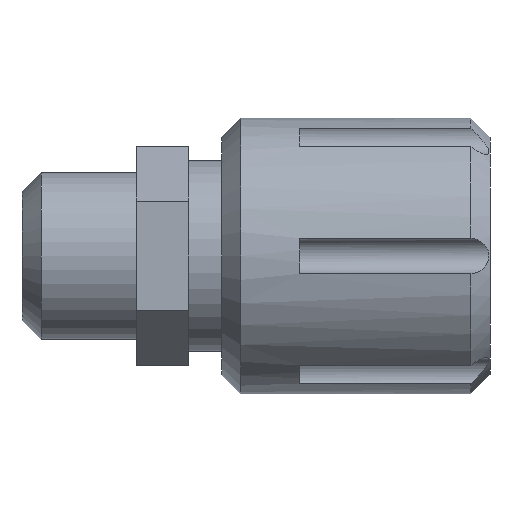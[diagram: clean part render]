
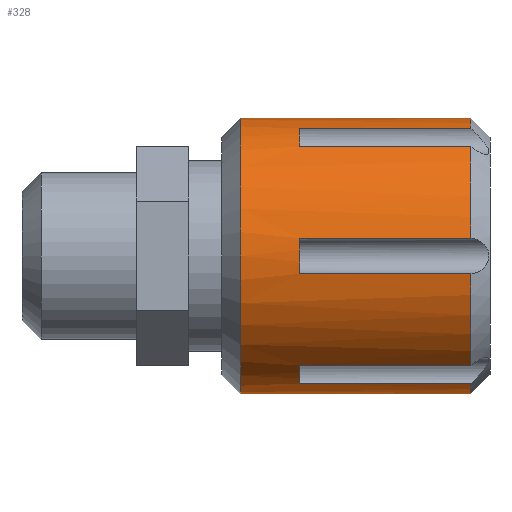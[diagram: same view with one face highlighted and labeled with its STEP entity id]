
A CAD part, front view. The second image highlights one B-rep face of the part: STEP entity #328.
In plain terms, the highlighted cylindrical face has radius 18.415 mm (diameter 36.83 mm), a partial arc.
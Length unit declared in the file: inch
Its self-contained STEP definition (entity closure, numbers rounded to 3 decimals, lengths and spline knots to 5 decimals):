
#109 = DIRECTION ( 'NONE',  ( -1., 0., 0. ) ) ;
#268 = EDGE_CURVE ( 'NONE', #1637, #1477, #1672, .T. ) ;
#328 = ADVANCED_FACE ( 'NONE', ( #388 ), #395, .T. ) ;
#388 = FACE_OUTER_BOUND ( 'NONE', #1653, .T. ) ;
#395 = CYLINDRICAL_SURFACE ( 'NONE', #1834, 0.725 ) ;
#462 = LINE ( 'NONE', #944, #465 ) ;
#465 = VECTOR ( 'NONE', #945, 39.37008 ) ;
#510 = CIRCLE ( 'NONE', #775, 0.725 ) ;
#513 = LINE ( 'NONE', #840, #519 ) ;
#514 = CIRCLE ( 'NONE', #774, 0.725 ) ;
#515 = LINE ( 'NONE', #826, #517 ) ;
#516 = CIRCLE ( 'NONE', #776, 0.725 ) ;
#517 = VECTOR ( 'NONE', #814, 39.37008 ) ;
#518 = CIRCLE ( 'NONE', #779, 0.725 ) ;
#519 = VECTOR ( 'NONE', #845, 39.37008 ) ;
#520 = LINE ( 'NONE', #846, #522 ) ;
#521 = LINE ( 'NONE', #852, #524 ) ;
#522 = VECTOR ( 'NONE', #844, 39.37008 ) ;
#523 = CIRCLE ( 'NONE', #777, 0.725 ) ;
#524 = VECTOR ( 'NONE', #853, 39.37008 ) ;
#526 = CIRCLE ( 'NONE', #778, 0.725 ) ;
#527 = LINE ( 'NONE', #854, #528 ) ;
#528 = VECTOR ( 'NONE', #855, 39.37008 ) ;
#537 = CIRCLE ( 'NONE', #784, 0.725 ) ;
#545 = CIRCLE ( 'NONE', #786, 0.725 ) ;
#556 = LINE ( 'NONE', #1395, #558 ) ;
#558 = VECTOR ( 'NONE', #1397, 39.37008 ) ;
#569 = DIRECTION ( 'NONE',  ( 0., 0., -1. ) ) ;
#597 = CARTESIAN_POINT ( 'NONE',  ( -0.66616, -0.71891, -0.0938 ) ) ;
#598 = CARTESIAN_POINT ( 'NONE',  ( -0.66616, 0., 0. ) ) ;
#599 = DIRECTION ( 'NONE',  ( -1., 0., 0. ) ) ;
#600 = DIRECTION ( 'NONE',  ( 0., 0., -1. ) ) ;
#602 = CARTESIAN_POINT ( 'NONE',  ( -0.66616, -0.44069, -0.57569 ) ) ;
#603 = CARTESIAN_POINT ( 'NONE',  ( -0.66616, -0.44069, 0.57569 ) ) ;
#604 = CARTESIAN_POINT ( 'NONE',  ( 0.23384, 0., 0. ) ) ;
#605 = DIRECTION ( 'NONE',  ( -1., 0., 0. ) ) ;
#606 = DIRECTION ( 'NONE',  ( 0., 0., -1. ) ) ;
#607 = CARTESIAN_POINT ( 'NONE',  ( 0.23384, -0.71891, 0.0938 ) ) ;
#609 = CARTESIAN_POINT ( 'NONE',  ( 0.23384, -0.71891, -0.0938 ) ) ;
#611 = CARTESIAN_POINT ( 'NONE',  ( -0.66616, -0.71891, 0.0938 ) ) ;
#618 = CARTESIAN_POINT ( 'NONE',  ( 0.23384, -0.44069, -0.57569 ) ) ;
#619 = CARTESIAN_POINT ( 'NONE',  ( -0.66616, -0.27822, 0.66949 ) ) ;
#621 = CARTESIAN_POINT ( 'NONE',  ( 0.23384, -0.27822, -0.66949 ) ) ;
#627 = CARTESIAN_POINT ( 'NONE',  ( -0.97616, 0., 0.725 ) ) ;
#630 = CARTESIAN_POINT ( 'NONE',  ( -0.66616, -0.27822, -0.66949 ) ) ;
#632 = CARTESIAN_POINT ( 'NONE',  ( 0.23384, -0.44069, 0.57569 ) ) ;
#637 = CARTESIAN_POINT ( 'NONE',  ( -0.97616, 0., -0.725 ) ) ;
#701 = CARTESIAN_POINT ( 'NONE',  ( -0.16616, -0.27822, 0.66949 ) ) ;
#730 = DIRECTION ( 'NONE',  ( -1., 0., 0. ) ) ;
#755 = EDGE_CURVE ( 'NONE', #1485, #1507, #462, .T. ) ;
#774 = AXIS2_PLACEMENT_3D ( 'NONE', #837, #838, #839 ) ;
#775 = AXIS2_PLACEMENT_3D ( 'NONE', #841, #842, #843 ) ;
#776 = AXIS2_PLACEMENT_3D ( 'NONE', #849, #850, #851 ) ;
#777 = AXIS2_PLACEMENT_3D ( 'NONE', #983, #109, #569 ) ;
#778 = AXIS2_PLACEMENT_3D ( 'NONE', #598, #599, #600 ) ;
#779 = AXIS2_PLACEMENT_3D ( 'NONE', #604, #605, #606 ) ;
#784 = AXIS2_PLACEMENT_3D ( 'NONE', #1344, #1346, #1347 ) ;
#786 = AXIS2_PLACEMENT_3D ( 'NONE', #1365, #1367, #1369 ) ;
#814 = DIRECTION ( 'NONE',  ( 1., 0., 0. ) ) ;
#826 = CARTESIAN_POINT ( 'NONE',  ( -0.16616, -0.44069, 0.57569 ) ) ;
#837 = CARTESIAN_POINT ( 'NONE',  ( -0.66616, 0., 0. ) ) ;
#838 = DIRECTION ( 'NONE',  ( -1., 0., 0. ) ) ;
#839 = DIRECTION ( 'NONE',  ( 0., 0., -1. ) ) ;
#840 = CARTESIAN_POINT ( 'NONE',  ( -0.16616, -0.71891, -0.0938 ) ) ;
#841 = CARTESIAN_POINT ( 'NONE',  ( -0.66616, 0., 0. ) ) ;
#842 = DIRECTION ( 'NONE',  ( -1., 0., 0. ) ) ;
#843 = DIRECTION ( 'NONE',  ( 0., 0., -1. ) ) ;
#844 = DIRECTION ( 'NONE',  ( 1., 0., 0. ) ) ;
#845 = DIRECTION ( 'NONE',  ( 1., 0., 0. ) ) ;
#846 = CARTESIAN_POINT ( 'NONE',  ( -0.16616, -0.27822, -0.66949 ) ) ;
#849 = CARTESIAN_POINT ( 'NONE',  ( 0.23384, 0., 0. ) ) ;
#850 = DIRECTION ( 'NONE',  ( -1., 0., 0. ) ) ;
#851 = DIRECTION ( 'NONE',  ( 0., 0., -1. ) ) ;
#852 = CARTESIAN_POINT ( 'NONE',  ( -0.16616, -0.71891, 0.0938 ) ) ;
#853 = DIRECTION ( 'NONE',  ( -1., 0., 0. ) ) ;
#854 = CARTESIAN_POINT ( 'NONE',  ( -0.16616, -0.44069, -0.57569 ) ) ;
#855 = DIRECTION ( 'NONE',  ( -1., 0., 0. ) ) ;
#913 = DIRECTION ( 'NONE',  ( 0., 0., -1. ) ) ;
#914 = CARTESIAN_POINT ( 'NONE',  ( 0.33384, 0., 0. ) ) ;
#915 = DIRECTION ( 'NONE',  ( 1., 0., 0. ) ) ;
#944 = CARTESIAN_POINT ( 'NONE',  ( 0.33384, 0., 0.725 ) ) ;
#945 = DIRECTION ( 'NONE',  ( 1., 0., 0. ) ) ;
#983 = CARTESIAN_POINT ( 'NONE',  ( 0.23384, 0., 0. ) ) ;
#992 = CARTESIAN_POINT ( 'NONE',  ( 0.23384, 0., 0.725 ) ) ;
#1106 = EDGE_CURVE ( 'NONE', #1447, #1456, #514, .T. ) ;
#1107 = EDGE_CURVE ( 'NONE', #1458, #1477, #510, .T. ) ;
#1108 = EDGE_CURVE ( 'NONE', #1458, #1490, #515, .T. ) ;
#1109 = EDGE_CURVE ( 'NONE', #1447, #1450, #513, .T. ) ;
#1110 = EDGE_CURVE ( 'NONE', #1446, #1490, #516, .T. ) ;
#1111 = EDGE_CURVE ( 'NONE', #1488, #1479, #520, .T. ) ;
#1112 = EDGE_CURVE ( 'NONE', #1446, #1456, #521, .T. ) ;
#1114 = EDGE_CURVE ( 'NONE', #1637, #1507, #523, .T. ) ;
#1116 = EDGE_CURVE ( 'NONE', #1488, #1444, #526, .T. ) ;
#1117 = EDGE_CURVE ( 'NONE', #1475, #1444, #527, .T. ) ;
#1118 = EDGE_CURVE ( 'NONE', #1475, #1450, #518, .T. ) ;
#1238 = CARTESIAN_POINT ( 'NONE',  ( 0.23384, 0., -0.725 ) ) ;
#1251 = CARTESIAN_POINT ( 'NONE',  ( 0.23384, -0.27822, 0.66949 ) ) ;
#1283 = ORIENTED_EDGE ( 'NONE', *, *, #1114, .T. ) ;
#1287 = ORIENTED_EDGE ( 'NONE', *, *, #268, .F. ) ;
#1289 = ORIENTED_EDGE ( 'NONE', *, *, #1107, .T. ) ;
#1291 = ORIENTED_EDGE ( 'NONE', *, *, #1108, .F. ) ;
#1294 = ORIENTED_EDGE ( 'NONE', *, *, #1106, .T. ) ;
#1296 = ORIENTED_EDGE ( 'NONE', *, *, #1110, .T. ) ;
#1300 = ORIENTED_EDGE ( 'NONE', *, *, #1112, .F. ) ;
#1312 = ORIENTED_EDGE ( 'NONE', *, *, #755, .F. ) ;
#1314 = ORIENTED_EDGE ( 'NONE', *, *, #1726, .T. ) ;
#1315 = ORIENTED_EDGE ( 'NONE', *, *, #1737, .T. ) ;
#1318 = ORIENTED_EDGE ( 'NONE', *, *, #1729, .T. ) ;
#1320 = ORIENTED_EDGE ( 'NONE', *, *, #1111, .F. ) ;
#1322 = ORIENTED_EDGE ( 'NONE', *, *, #1116, .T. ) ;
#1324 = ORIENTED_EDGE ( 'NONE', *, *, #1117, .F. ) ;
#1326 = ORIENTED_EDGE ( 'NONE', *, *, #1118, .T. ) ;
#1332 = ORIENTED_EDGE ( 'NONE', *, *, #1109, .F. ) ;
#1344 = CARTESIAN_POINT ( 'NONE',  ( -0.97616, 0., 0. ) ) ;
#1346 = DIRECTION ( 'NONE',  ( 1., 0., 0. ) ) ;
#1347 = DIRECTION ( 'NONE',  ( 0., 0., 1. ) ) ;
#1365 = CARTESIAN_POINT ( 'NONE',  ( 0.23384, 0., 0. ) ) ;
#1367 = DIRECTION ( 'NONE',  ( -1., 0., 0. ) ) ;
#1369 = DIRECTION ( 'NONE',  ( 0., 0., -1. ) ) ;
#1395 = CARTESIAN_POINT ( 'NONE',  ( 0.33384, 0., -0.725 ) ) ;
#1397 = DIRECTION ( 'NONE',  ( 1., 0., 0. ) ) ;
#1444 = VERTEX_POINT ( 'NONE', #602 ) ;
#1446 = VERTEX_POINT ( 'NONE', #607 ) ;
#1447 = VERTEX_POINT ( 'NONE', #597 ) ;
#1450 = VERTEX_POINT ( 'NONE', #609 ) ;
#1456 = VERTEX_POINT ( 'NONE', #611 ) ;
#1458 = VERTEX_POINT ( 'NONE', #603 ) ;
#1475 = VERTEX_POINT ( 'NONE', #618 ) ;
#1477 = VERTEX_POINT ( 'NONE', #619 ) ;
#1479 = VERTEX_POINT ( 'NONE', #621 ) ;
#1485 = VERTEX_POINT ( 'NONE', #627 ) ;
#1488 = VERTEX_POINT ( 'NONE', #630 ) ;
#1490 = VERTEX_POINT ( 'NONE', #632 ) ;
#1495 = VERTEX_POINT ( 'NONE', #637 ) ;
#1507 = VERTEX_POINT ( 'NONE', #992 ) ;
#1610 = VECTOR ( 'NONE', #730, 39.37008 ) ;
#1614 = VERTEX_POINT ( 'NONE', #1238 ) ;
#1637 = VERTEX_POINT ( 'NONE', #1251 ) ;
#1653 = EDGE_LOOP ( 'NONE', ( #1312, #1314, #1315, #1318, #1320, #1322, #1324, #1326, #1332, #1294, #1300, #1296, #1291, #1289, #1287, #1283 ) ) ;
#1672 = LINE ( 'NONE', #701, #1610 ) ;
#1726 = EDGE_CURVE ( 'NONE', #1485, #1495, #537, .T. ) ;
#1729 = EDGE_CURVE ( 'NONE', #1614, #1479, #545, .T. ) ;
#1737 = EDGE_CURVE ( 'NONE', #1495, #1614, #556, .T. ) ;
#1834 = AXIS2_PLACEMENT_3D ( 'NONE', #914, #915, #913 ) ;
